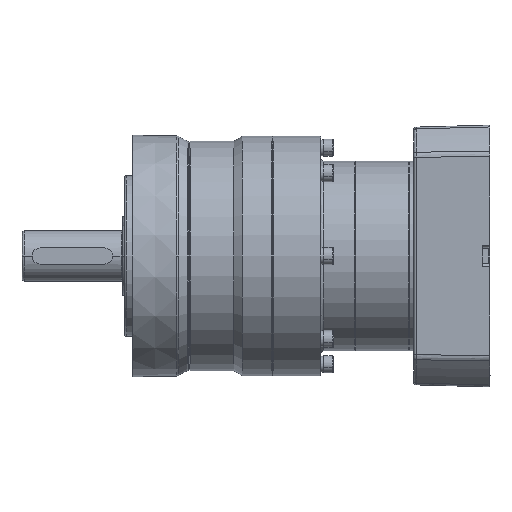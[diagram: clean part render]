
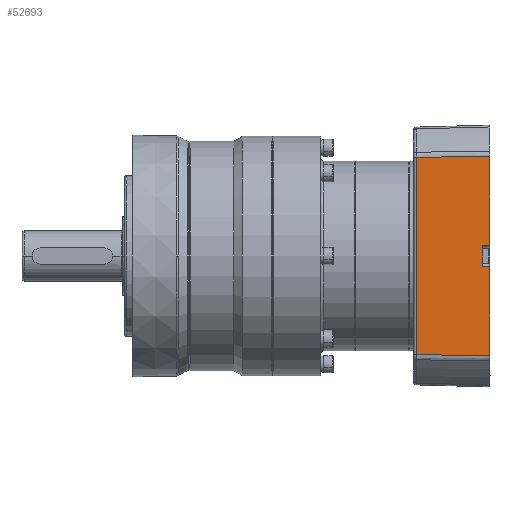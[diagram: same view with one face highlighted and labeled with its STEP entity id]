
A CAD part, front view. The second image highlights one B-rep face of the part: STEP entity #52693.
In plain terms, the highlighted planar face has unit normal (-0.026, -1, 0) as drawn and (0, 1, -0.026) by its records, which use the part's own axes.
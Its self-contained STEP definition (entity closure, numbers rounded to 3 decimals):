
#905 = DIRECTION ( 'NONE',  ( 0., 0.026, 1. ) ) ;
#1917 = EDGE_CURVE ( 'NONE', #40059, #27607, #20081, .T. ) ;
#3814 = VECTOR ( 'NONE', #14062, 1000. ) ;
#7034 = LINE ( 'NONE', #42656, #65995 ) ;
#8715 = EDGE_CURVE ( 'NONE', #18424, #55827, #67109, .T. ) ;
#9155 = VECTOR ( 'NONE', #69353, 1000. ) ;
#9217 = DIRECTION ( 'NONE',  ( 1., 0., 0. ) ) ;
#9406 = CARTESIAN_POINT ( 'NONE',  ( -23680.694, 26614.672, 23539.5 ) ) ;
#10172 = EDGE_CURVE ( 'NONE', #82477, #18424, #55979, .T. ) ;
#10531 = LINE ( 'NONE', #9406, #35799 ) ;
#11267 = VERTEX_POINT ( 'NONE', #13736 ) ;
#11410 = VECTOR ( 'NONE', #54950, 1000. ) ;
#13736 = CARTESIAN_POINT ( 'NONE',  ( -23580.819, 26613.807, 23506.461 ) ) ;
#14062 = DIRECTION ( 'NONE',  ( 1., 0., 0. ) ) ;
#16182 = LINE ( 'NONE', #31281, #49832 ) ;
#18424 = VERTEX_POINT ( 'NONE', #69951 ) ;
#18878 = ORIENTED_EDGE ( 'NONE', *, *, #42020, .T. ) ;
#20081 = LINE ( 'NONE', #25607, #35842 ) ;
#21605 = LINE ( 'NONE', #67437, #3814 ) ;
#21747 = EDGE_CURVE ( 'NONE', #40562, #68780, #10531, .T. ) ;
#22415 = CARTESIAN_POINT ( 'NONE',  ( -23624.732, 26614.75, 23542.491 ) ) ;
#23100 = EDGE_CURVE ( 'NONE', #68780, #25260, #7034, .T. ) ;
#23356 = CARTESIAN_POINT ( 'NONE',  ( -23624.732, 26614.75, 23542.491 ) ) ;
#24084 = ORIENTED_EDGE ( 'NONE', *, *, #23100, .T. ) ;
#25260 = VERTEX_POINT ( 'NONE', #23356 ) ;
#25607 = CARTESIAN_POINT ( 'NONE',  ( -23680.694, 26614.763, 23543. ) ) ;
#27000 = LINE ( 'NONE', #22415, #9155 ) ;
#27232 = CARTESIAN_POINT ( 'NONE',  ( -23580.479, 26614.763, 23543. ) ) ;
#27607 = VERTEX_POINT ( 'NONE', #27232 ) ;
#27932 = CARTESIAN_POINT ( 'NONE',  ( -23679.298, 26614.763, 23543. ) ) ;
#31281 = CARTESIAN_POINT ( 'NONE',  ( -23635.045, 26614.75, 23542.491 ) ) ;
#33827 = CARTESIAN_POINT ( 'NONE',  ( -23678.958, 26613.807, 23506.461 ) ) ;
#34110 = PLANE ( 'NONE',  #41231 ) ;
#34250 = CARTESIAN_POINT ( 'NONE',  ( -23635.582, 26614.763, 23543. ) ) ;
#34321 = DIRECTION ( 'NONE',  ( 0.725, -0.018, -0.688 ) ) ;
#34824 = EDGE_CURVE ( 'NONE', #11267, #27607, #69482, .T. ) ;
#35799 = VECTOR ( 'NONE', #9217, 1000. ) ;
#35842 = VECTOR ( 'NONE', #51181, 1000. ) ;
#36113 = ORIENTED_EDGE ( 'NONE', *, *, #48015, .T. ) ;
#38983 = ORIENTED_EDGE ( 'NONE', *, *, #8715, .T. ) ;
#40059 = VERTEX_POINT ( 'NONE', #82433 ) ;
#40562 = VERTEX_POINT ( 'NONE', #46506 ) ;
#41178 = DIRECTION ( 'NONE',  ( 0., 1., -0.026 ) ) ;
#41231 = AXIS2_PLACEMENT_3D ( 'NONE', #81407, #41178, #905 ) ;
#42020 = EDGE_CURVE ( 'NONE', #25260, #40059, #27000, .T. ) ;
#42578 = DIRECTION ( 'NONE',  ( 0.052, 0.026, 0.998 ) ) ;
#42656 = CARTESIAN_POINT ( 'NONE',  ( -23624.888, 26614.672, 23539.5 ) ) ;
#44334 = DIRECTION ( 'NONE',  ( 0.009, 0.026, 1. ) ) ;
#46506 = CARTESIAN_POINT ( 'NONE',  ( -23634.888, 26614.672, 23539.5 ) ) ;
#48015 = EDGE_CURVE ( 'NONE', #75851, #82477, #81540, .T. ) ;
#49676 = ORIENTED_EDGE ( 'NONE', *, *, #21747, .T. ) ;
#49816 = DIRECTION ( 'NONE',  ( -0.009, 0.026, 1. ) ) ;
#49832 = VECTOR ( 'NONE', #64736, 1000. ) ;
#50799 = EDGE_CURVE ( 'NONE', #55827, #40562, #16182, .T. ) ;
#51181 = DIRECTION ( 'NONE',  ( 1., 0., 0. ) ) ;
#52693 = ADVANCED_FACE ( 'NONE', ( #53391 ), #34110, .T. ) ;
#53391 = FACE_OUTER_BOUND ( 'NONE', #67075, .T. ) ;
#54116 = ORIENTED_EDGE ( 'NONE', *, *, #1917, .T. ) ;
#54950 = DIRECTION ( 'NONE',  ( 1., 0., 0. ) ) ;
#55636 = CARTESIAN_POINT ( 'NONE',  ( -23680.694, 26614.763, 23543. ) ) ;
#55827 = VERTEX_POINT ( 'NONE', #83592 ) ;
#55979 = LINE ( 'NONE', #55636, #11410 ) ;
#56355 = ORIENTED_EDGE ( 'NONE', *, *, #50799, .T. ) ;
#60413 = CARTESIAN_POINT ( 'NONE',  ( -23624.888, 26614.672, 23539.5 ) ) ;
#63655 = ORIENTED_EDGE ( 'NONE', *, *, #74903, .F. ) ;
#64736 = DIRECTION ( 'NONE',  ( 0.052, -0.026, -0.998 ) ) ;
#65995 = VECTOR ( 'NONE', #42578, 1000. ) ;
#66931 = VECTOR ( 'NONE', #34321, 1000. ) ;
#67075 = EDGE_LOOP ( 'NONE', ( #38983, #56355, #49676, #24084, #18878, #54116, #67545, #63655, #36113, #80872 ) ) ;
#67109 = LINE ( 'NONE', #34250, #66931 ) ;
#67437 = CARTESIAN_POINT ( 'NONE',  ( -23629.888, 26613.807, 23506.461 ) ) ;
#67545 = ORIENTED_EDGE ( 'NONE', *, *, #34824, .F. ) ;
#68780 = VERTEX_POINT ( 'NONE', #60413 ) ;
#69353 = DIRECTION ( 'NONE',  ( 0.725, 0.018, 0.688 ) ) ;
#69482 = LINE ( 'NONE', #77823, #69551 ) ;
#69551 = VECTOR ( 'NONE', #44334, 1000. ) ;
#69951 = CARTESIAN_POINT ( 'NONE',  ( -23635.582, 26614.763, 23543. ) ) ;
#74903 = EDGE_CURVE ( 'NONE', #75851, #11267, #21605, .T. ) ;
#75851 = VERTEX_POINT ( 'NONE', #33827 ) ;
#77823 = CARTESIAN_POINT ( 'NONE',  ( -23580.479, 26614.763, 23543. ) ) ;
#79454 = VECTOR ( 'NONE', #49816, 1000. ) ;
#80872 = ORIENTED_EDGE ( 'NONE', *, *, #10172, .T. ) ;
#81407 = CARTESIAN_POINT ( 'NONE',  ( -23680.694, 26614.763, 23543. ) ) ;
#81540 = LINE ( 'NONE', #83322, #79454 ) ;
#82433 = CARTESIAN_POINT ( 'NONE',  ( -23624.195, 26614.763, 23543. ) ) ;
#82477 = VERTEX_POINT ( 'NONE', #27932 ) ;
#83322 = CARTESIAN_POINT ( 'NONE',  ( -23678.958, 26613.807, 23506.461 ) ) ;
#83592 = CARTESIAN_POINT ( 'NONE',  ( -23635.045, 26614.75, 23542.491 ) ) ;
